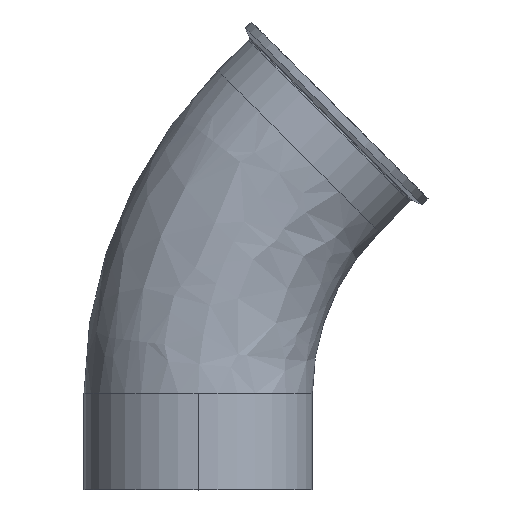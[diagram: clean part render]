
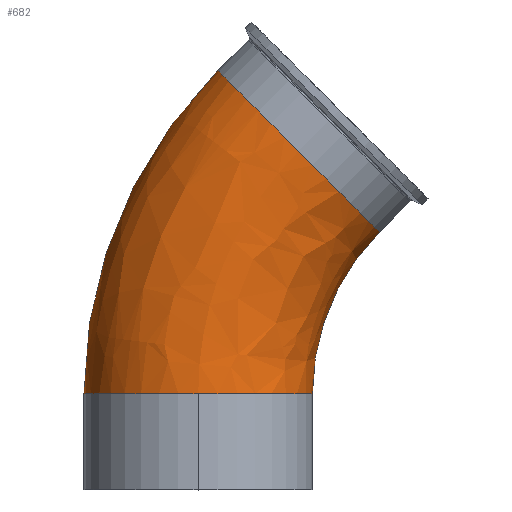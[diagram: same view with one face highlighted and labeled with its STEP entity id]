
A CAD part, top view. The second image highlights one B-rep face of the part: STEP entity #682.
In plain terms, the highlighted free-form (B-spline) face has degree [3, 3] with [4, 4] control points.
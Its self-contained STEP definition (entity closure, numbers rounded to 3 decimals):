
#6 = CARTESIAN_POINT ( 'NONE',  ( 91.874, 142.911, 152.4 ) ) ;
#15 = CARTESIAN_POINT ( 'NONE',  ( 13.074, 279.637, 152.4 ) ) ;
#25 = CARTESIAN_POINT ( 'NONE',  ( 13.074, 279.637, 0. ) ) ;
#51 = CARTESIAN_POINT ( 'NONE',  ( 0., 64.111, 76.2 ) ) ;
#66 = CIRCLE ( 'NONE', #1706, 76.2 ) ;
#92 = DIRECTION ( 'NONE',  ( -1., 0., 0. ) ) ;
#95 = CARTESIAN_POINT ( 'NONE',  ( 76.2, 64.111, 0. ) ) ;
#96 = VERTEX_POINT ( 'NONE', #505 ) ;
#152 = DIRECTION ( 'NONE',  ( 0., 0., -1. ) ) ;
#186 = CARTESIAN_POINT ( 'NONE',  ( -76.2, 64.111, 152.4 ) ) ;
#195 = CARTESIAN_POINT ( 'NONE',  ( 91.874, 142.911, 0. ) ) ;
#202 = CARTESIAN_POINT ( 'NONE',  ( -76.2, 146.029, 152.4 ) ) ;
#363 = CARTESIAN_POINT ( 'NONE',  ( -76.2, 146.029, 0. ) ) ;
#389 = CARTESIAN_POINT ( 'NONE',  ( -44.851, 221.712, 0. ) ) ;
#418 = DIRECTION ( 'NONE',  ( 0., 1., 0. ) ) ;
#456 = CIRCLE ( 'NONE', #1627, 76.2 ) ;
#464 = CARTESIAN_POINT ( 'NONE',  ( 66.955, 225.755, 0. ) ) ;
#493 = AXIS2_PLACEMENT_3D ( 'NONE', #2071, #1842, #2265 ) ;
#505 = CARTESIAN_POINT ( 'NONE',  ( 120.837, 171.874, 0. ) ) ;
#624 = DIRECTION ( 'NONE',  ( -0.707, -0.707, 0. ) ) ;
#682 = ADVANCED_FACE ( 'NONE', ( #777 ), #2102, .T. ) ;
#745 = CARTESIAN_POINT ( 'NONE',  ( -76.2, 64.111, 0. ) ) ;
#762 = EDGE_CURVE ( 'NONE', #1415, #96, #1341, .T. ) ;
#777 = FACE_OUTER_BOUND ( 'NONE', #1877, .T. ) ;
#892 = EDGE_CURVE ( 'NONE', #2247, #1692, #456, .T. ) ;
#927 = CARTESIAN_POINT ( 'NONE',  ( 76.2, 105.07, 152.4 ) ) ;
#944 = AXIS2_PLACEMENT_3D ( 'NONE', #1786, #1591, #92 ) ;
#950 = ORIENTED_EDGE ( 'NONE', *, *, #1014, .T. ) ;
#979 = VERTEX_POINT ( 'NONE', #1592 ) ;
#1014 = EDGE_CURVE ( 'NONE', #1692, #1415, #1584, .T. ) ;
#1072 = CIRCLE ( 'NONE', #1667, 304.8 ) ;
#1124 = CARTESIAN_POINT ( 'NONE',  ( 0., 64.111, 0. ) ) ;
#1125 = EDGE_CURVE ( 'NONE', #96, #979, #66, .T. ) ;
#1240 = CARTESIAN_POINT ( 'NONE',  ( 228.6, 64.111, 0. ) ) ;
#1264 = CARTESIAN_POINT ( 'NONE',  ( -76.2, 64.111, 0. ) ) ;
#1269 = ORIENTED_EDGE ( 'NONE', *, *, #1125, .T. ) ;
#1276 = CARTESIAN_POINT ( 'NONE',  ( 120.837, 171.874, 152.4 ) ) ;
#1288 = CARTESIAN_POINT ( 'NONE',  ( -44.851, 221.712, 152.4 ) ) ;
#1327 = ORIENTED_EDGE ( 'NONE', *, *, #2201, .F. ) ;
#1341 = CIRCLE ( 'NONE', #493, 152.4 ) ;
#1415 = VERTEX_POINT ( 'NONE', #95 ) ;
#1437 = DIRECTION ( 'NONE',  ( -1., 0., 0. ) ) ;
#1475 = CARTESIAN_POINT ( 'NONE',  ( 76.2, 105.07, 0. ) ) ;
#1487 = CARTESIAN_POINT ( 'NONE',  ( 120.837, 171.874, 0. ) ) ;
#1584 = CIRCLE ( 'NONE', #944, 76.2 ) ;
#1591 = DIRECTION ( 'NONE',  ( 0., 1., 0. ) ) ;
#1592 = CARTESIAN_POINT ( 'NONE',  ( 13.074, 279.637, 0. ) ) ;
#1600 = ORIENTED_EDGE ( 'NONE', *, *, #892, .T. ) ;
#1627 = AXIS2_PLACEMENT_3D ( 'NONE', #1124, #418, #1903 ) ;
#1667 = AXIS2_PLACEMENT_3D ( 'NONE', #1240, #152, #1437 ) ;
#1692 = VERTEX_POINT ( 'NONE', #51 ) ;
#1706 = AXIS2_PLACEMENT_3D ( 'NONE', #464, #624, #1946 ) ;
#1786 = CARTESIAN_POINT ( 'NONE',  ( 0., 64.111, 0. ) ) ;
#1824 = ORIENTED_EDGE ( 'NONE', *, *, #762, .T. ) ;
#1842 = DIRECTION ( 'NONE',  ( 0., 0., -1. ) ) ;
#1877 = EDGE_LOOP ( 'NONE', ( #950, #1824, #1269, #1327, #1600 ) ) ;
#1903 = DIRECTION ( 'NONE',  ( -1., 0., 0. ) ) ;
#1946 = DIRECTION ( 'NONE',  ( -0.707, 0.707, 0. ) ) ;
#2071 = CARTESIAN_POINT ( 'NONE',  ( 228.6, 64.111, 0. ) ) ;
#2072 = CARTESIAN_POINT ( 'NONE',  ( 76.2, 64.111, 152.4 ) ) ;
#2102 =( BOUNDED_SURFACE ( )  B_SPLINE_SURFACE ( 3, 3, ( 
 ( #745, #363, #389, #25 ),
 ( #186, #202, #1288, #15 ),
 ( #2072, #927, #6, #1276 ),
 ( #2242, #1475, #195, #1487 ) ),
 .UNSPECIFIED., .F., .F., .T. ) 
 B_SPLINE_SURFACE_WITH_KNOTS ( ( 4, 4 ),
 ( 4, 4 ),
 ( 0., 1. ),
 ( 0., 1. ),
 .UNSPECIFIED. ) 
 GEOMETRIC_REPRESENTATION_ITEM ( )  RATIONAL_B_SPLINE_SURFACE ( (
 ( 1., 0.949, 0.949, 1.),
 ( 0.333, 0.316, 0.316, 0.333),
 ( 0.333, 0.316, 0.316, 0.333),
 ( 1., 0.949, 0.949, 1.) ) ) 
 REPRESENTATION_ITEM ( '' )  SURFACE ( )  );
#2201 = EDGE_CURVE ( 'NONE', #2247, #979, #1072, .T. ) ;
#2242 = CARTESIAN_POINT ( 'NONE',  ( 76.2, 64.111, 0. ) ) ;
#2247 = VERTEX_POINT ( 'NONE', #1264 ) ;
#2265 = DIRECTION ( 'NONE',  ( -1., 0., 0. ) ) ;
